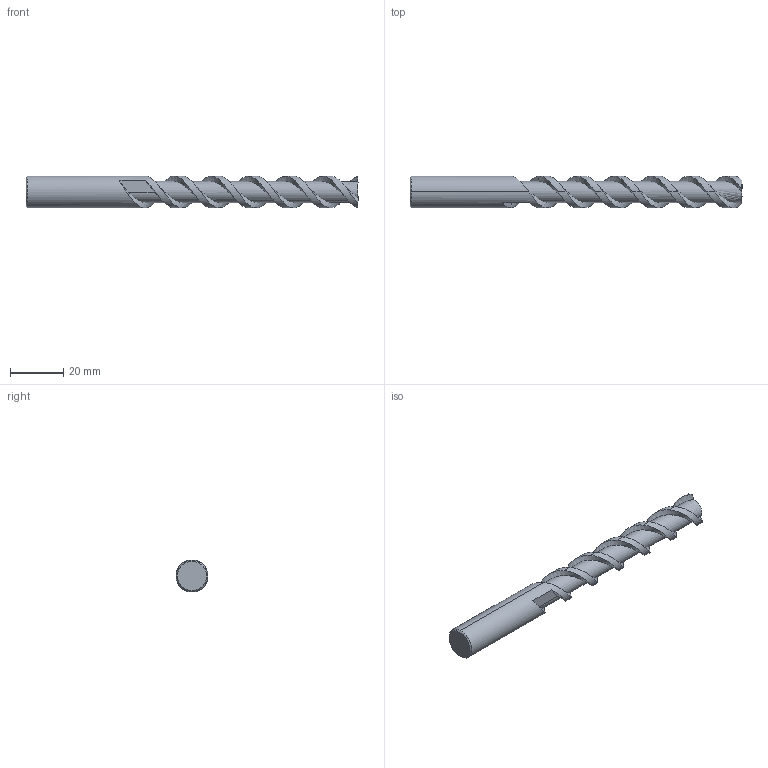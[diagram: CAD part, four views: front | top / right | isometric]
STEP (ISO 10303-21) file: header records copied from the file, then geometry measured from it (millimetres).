
FILE_DESCRIPTION (( 'STEP AP214' ), '1' );
FILE_NAME ('E2122_12_125.STEP', '2013-04-10T06:59:50', ( '' ), ( '' ), 'SwSTEP 2.0', 'SolidWorks 2013', '' );
FILE_SCHEMA (( 'AUTOMOTIVE_DESIGN' ));
Length unit declared in the file: millimetre
Products named in the file (1): E2122_12_125
Bounding box: 125 x 12 x 12 mm (x, y, z)
Volume: 10152.4 mm3; surface area: 4932.3 mm2
Topology: 1 solids, 1 shells, 28 faces, 72 edges, 46 vertices
Faces by surface type: cylinder 12, plane 8, bspline 6, cone 2
Entity records: 6926 total; most frequent: CARTESIAN_POINT 6035, ORIENTED_EDGE 144, DIRECTION 84, EDGE_CURVE 72, VERTEX_POINT 46, UNCERTAINTY_MEASURE_WITH_UNIT 31, STYLED_ITEM 30, PRESENTATION_STYLE_ASSIGNMENT 30
